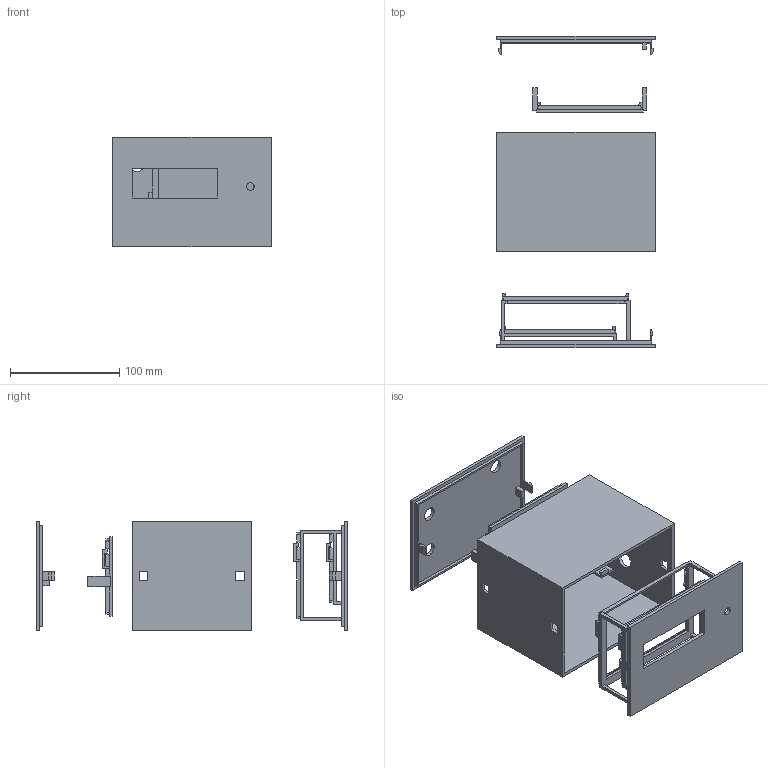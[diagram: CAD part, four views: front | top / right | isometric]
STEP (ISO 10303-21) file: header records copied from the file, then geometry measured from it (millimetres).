
FILE_DESCRIPTION(('Open CASCADE Model'),'2;1');
FILE_NAME('Open CASCADE Shape Model','2026-11-04T22:00:48',('Author'),( 'Open CASCADE'),'Open CASCADE STEP processor 7.8','Open CASCADE 7.8' ,'Unknown');
FILE_SCHEMA(('AUTOMOTIVE_DESIGN { 1 0 10303 214 1 1 1 1 }'));
Length unit declared in the file: millimetre
Products named in the file (5): Boitier_4_pieces_vue_eclatee; 01_Coque_ouverte; 02_Facade_supports_LCD_A; 03_Berceau_B; 04_Panneau_arriere
Assembly tree (4 placements, depth 2):
  Boitier_4_pieces_vue_eclatee
    01_Coque_ouverte
    02_Facade_supports_LCD_A
    03_Berceau_B
    04_Panneau_arriere
Bounding box: 145 x 285 x 100 mm (x, y, z)
Volume: 273655.1 mm3; surface area: 208204.5 mm2
Topology: 4 solids, 4 shells, 368 faces, 1059 edges, 704 vertices
Faces by surface type: plane 363, cylinder 5
Full cylindrical faces by diameter (mm): 7.2 x1, 12.4 x1, 12.5 x2, 16 x1
Entity records: 25791 total; most frequent: CARTESIAN_POINT 4254, DIRECTION 3933, LINE 3157, VECTOR 3157, ORIENTED_EDGE 2118, PCURVE 2118, DEFINITIONAL_REPRESENTATION 2118, EDGE_CURVE 1059
